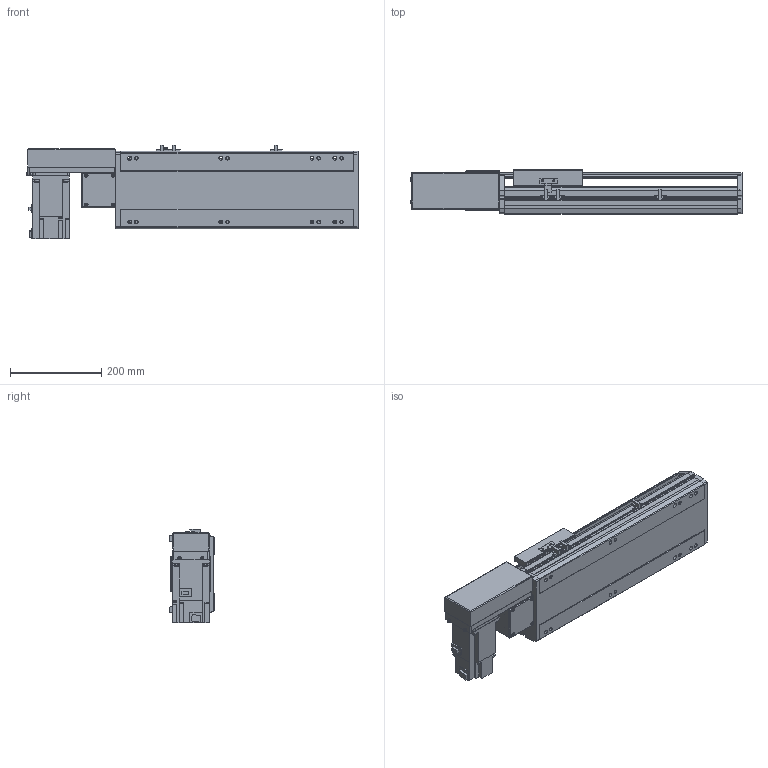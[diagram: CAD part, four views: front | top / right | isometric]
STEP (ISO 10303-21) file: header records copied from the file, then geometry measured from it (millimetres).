
FILE_DESCRIPTION( ( 'STEP AP214' ), '1' );
FILE_NAME( 'x:/temp/worker_4/temp/exporttempdir_2248_252_jhC4I/format_0/PBS170-P40-S250-R-T75-C1-N(0).stp', '2022-06-07T07:28:55', ( 'License CC BY-ND 4.0' ), ( 'CADENAS' ), ' ', 'PARTsolutions', ' ' );
FILE_SCHEMA( ( 'AUTOMOTIVE_DESIGN { 1 0 10303 214 1 1 1 1 }' ) );
Length unit declared in the file: millimetre
Products named in the file (7): PBS170-P40-S250-R-T75-C1-N(0); _PBS170-S250()_body; _PBS170T-R_motors; _T75-p1; _PBS170_sliser; _PBS170_plant; _PBS170_sensor
Assembly tree (8 placements, depth 2):
  PBS170-P40-S250-R-T75-C1-N(0)
    _PBS170-S250()_body
    _PBS170T-R_motors
    _T75-p1
    _PBS170_sliser
    _PBS170_plant
    _PBS170_sensor  x3
Bounding box: 728 x 97 x 205.3 mm (x, y, z)
Volume: 5643707.8 mm3; surface area: 796494.5 mm2
Topology: 8 solids, 8 shells, 1018 faces, 2715 edges, 1770 vertices
Faces by surface type: plane 663, cylinder 307, cone 38, sphere 8, torus 2
Full cylindrical faces by diameter (mm): 3.242 x4, 4 x2, 4.4 x4, 4.5 x6, 4.917 x4, 6 x9, 6.647 x16, 7 x2, 7.5 x4, 8 x8, 8.5 x8, 10 x4, 10.5 x8, 11 x2, 30 x2, 40 x1, 70 x1
Entity records: 37172 total; most frequent: CARTESIAN_POINT 5549, DIRECTION 5020, ORIENTED_EDGE 4788, EDGE_CURVE 2394, AXIS2_PLACEMENT_3D 1717, VERTEX_POINT 1634, LINE 1586, VECTOR 1586
